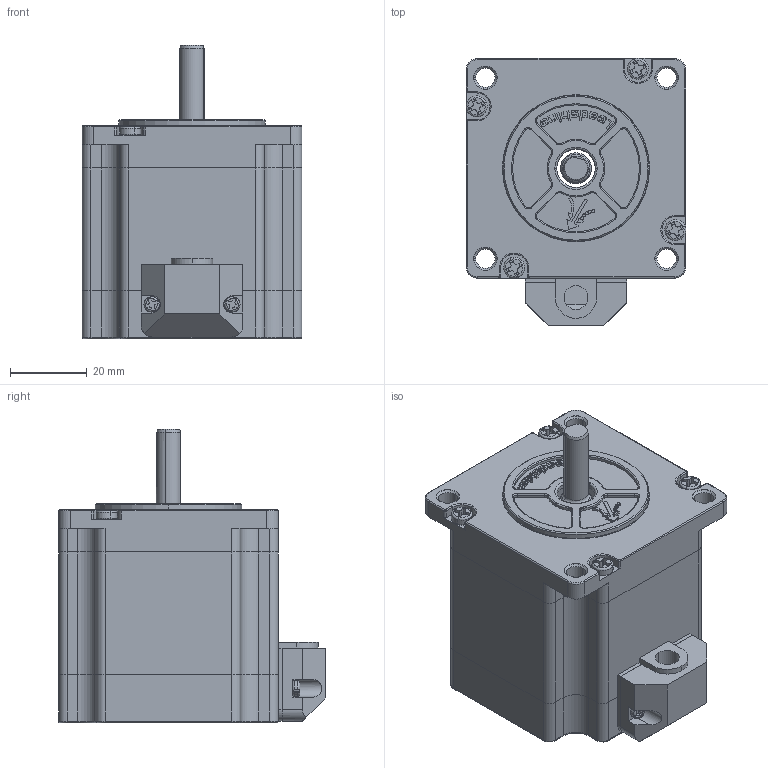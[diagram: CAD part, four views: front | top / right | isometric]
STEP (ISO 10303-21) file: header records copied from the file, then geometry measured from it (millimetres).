
FILE_DESCRIPTION (( 'STEP AP203' ), '1' );
FILE_NAME ('57CM13 MS30.STEP', '2021-04-19T07:09:01', ( 'Owner' ), ( 'Organization' ), 'SwSTEP 2.0', 'SolidWorks 2018', '' );
FILE_SCHEMA (( 'CONFIG_CONTROL_DESIGN' ));
Length unit declared in the file: millimetre
Products named in the file (11): 57CM13 MS30; YXB 57S-__6.2FC-02.step.STEP; DZTX57HSD32-S1.STEP; DG57HSD-004-S03.STEP; MFD 57S-__6.2FC-02.step.STEP; Z57HS56MD21B15.STEP; DG57HSD-005-S05.STEP; GJ57HSD16-S01.STEP; M3x52.STEP; ZZ57HS056DF042X-01.STEP; M2.5x7.STEP
Assembly tree (15 placements, depth 3):
  57CM13 MS30
    ZZ57HS056DF042X-01.STEP
      Z57HS56MD21B15.STEP
    DZTX57HSD32-S1.STEP
    DG57HSD-004-S03.STEP
    DG57HSD-005-S05.STEP
    GJ57HSD16-S01.STEP  x2
    M2.5x7.STEP  x2
    M3x52.STEP  x4
    YXB 57S-__6.2FC-02.step.STEP
    MFD 57S-__6.2FC-02.step.STEP
Bounding box: 57.23 x 69.52 x 76.5 mm (x, y, z)
Volume: 96042.5 mm3; surface area: 82439.5 mm2
Topology: 14 solids, 14 shells, 2755 faces, 7539 edges, 4785 vertices
Faces by surface type: cylinder 1141, plane 1129, bspline 178, torus 145, cone 82, sphere 80
Entity records: 72732 total; most frequent: CARTESIAN_POINT 17113, ORIENTED_EDGE 11668, DIRECTION 11198, EDGE_CURVE 5834, AXIS2_PLACEMENT_3D 3915, VERTEX_POINT 3755, LINE 3368, VECTOR 3368
